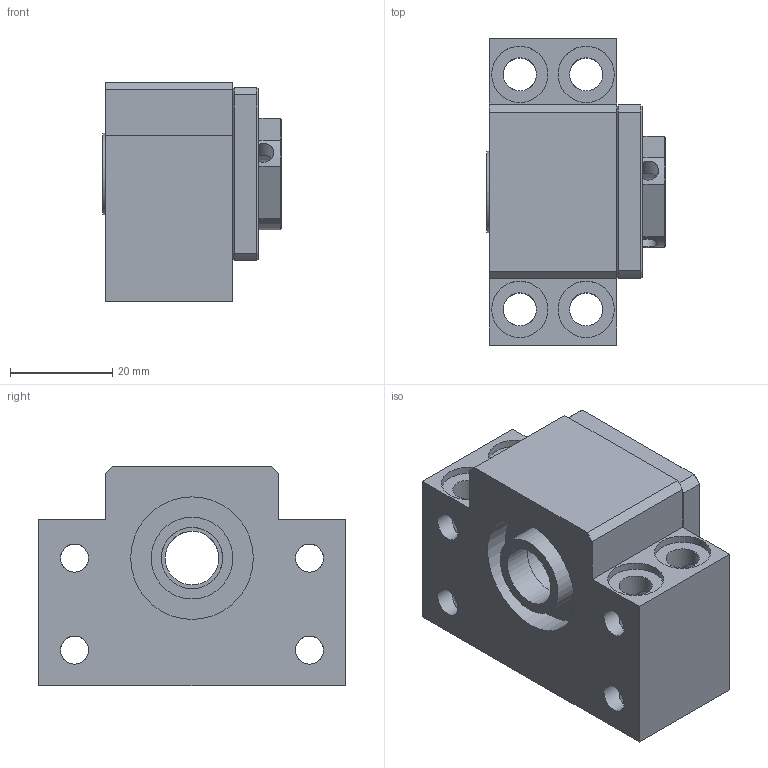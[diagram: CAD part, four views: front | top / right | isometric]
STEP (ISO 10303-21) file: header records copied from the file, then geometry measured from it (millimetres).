
FILE_DESCRIPTION(/* description */ (''),/* implementation_level */ '2;1');
FILE_NAME(/* name */ 'BK12-STP.stp',/* time_stamp */ '2019-11-21T11:20:25+08:00',/* author */ (''),/* organization */ (''),/* preprocessor_version */ 'ST-DEVELOPER v14',/* originating_system */ 'SIEMENS PLM Software NX 8.0',/* authorisation */ '');
FILE_SCHEMA (('AUTOMOTIVE_DESIGN { 1 0 10303 214 3 1 1 1 }'));
Length unit declared in the file: millimetre
Products named in the file (6): BK12-B; BK12-A; GT-16-12-5.5; M12; 7001; BK12
Assembly tree (7 placements, depth 2):
  BK12
    7001  x2
    M12
    GT-16-12-5.5  x2
    BK12-A
    BK12-B
Bounding box: 35 x 60 x 43 mm (x, y, z)
Volume: 50485.9 mm3; surface area: 24326.7 mm2
Topology: 7 solids, 7 shells, 147 faces, 348 edges, 222 vertices
Faces by surface type: plane 63, cylinder 56, cone 25, torus 3
Full cylindrical faces by diameter (mm): 4 x6, 4.5 x4, 5.5 x12, 6.5 x4, 7.5 x4, 10.5 x1, 11 x4, 12 x4, 16 x2, 17 x1, 24 x2, 28 x4
Entity records: 5054 total; most frequent: CARTESIAN_POINT 2043, DIRECTION 588, ORIENTED_EDGE 480, EDGE_LOOP 260, AXIS2_PLACEMENT_3D 255, EDGE_CURVE 240, FACE_BOUND 203, VERTEX_POINT 182
